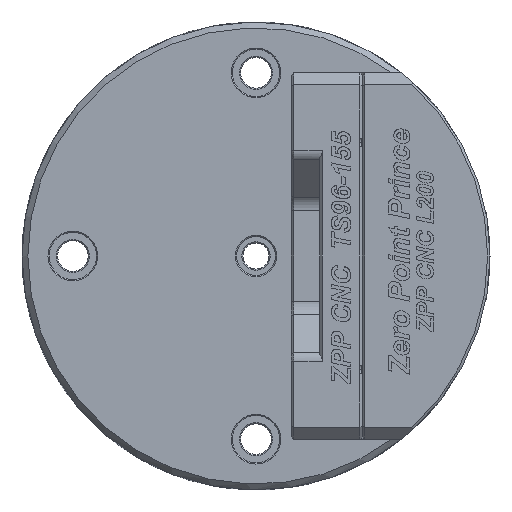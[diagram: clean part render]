
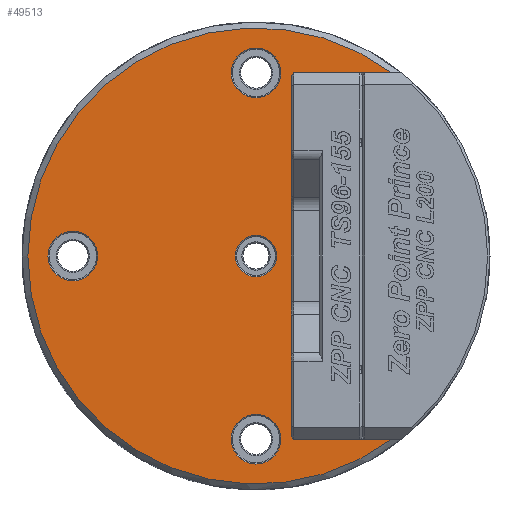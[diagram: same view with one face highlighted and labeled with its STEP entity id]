
A CAD part, left-side view. The second image highlights one B-rep face of the part: STEP entity #49513.
In plain terms, the highlighted planar face has unit normal (-1, 0, 0).
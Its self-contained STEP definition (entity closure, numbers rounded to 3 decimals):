
#46274=CARTESIAN_POINT('',(0.,0.,0.));
#46275=DIRECTION('',(-1.,0.,0.));
#46276=DIRECTION('',(0.,-0.596,0.803));
#46277=AXIS2_PLACEMENT_3D('',#46274,#46275,#46276);
#46296=CARTESIAN_POINT('',(0.,0.,0.));
#46297=DIRECTION('',(1.,0.,0.));
#46298=DIRECTION('',(0.,0.,1.));
#46299=AXIS2_PLACEMENT_3D('',#46296,#46297,#46298);
#46301=CARTESIAN_POINT('',(0.,0.,0.));
#46302=DIRECTION('',(1.,0.,0.));
#46303=DIRECTION('',(0.,0.,-1.));
#46304=AXIS2_PLACEMENT_3D('',#46301,#46302,#46303);
#46306=CARTESIAN_POINT('',(0.,77.5,0.));
#46307=DIRECTION('',(1.,0.,0.));
#46308=DIRECTION('',(0.,0.,-1.));
#46309=AXIS2_PLACEMENT_3D('',#46306,#46307,#46308);
#46311=CARTESIAN_POINT('',(0.,77.5,0.));
#46312=DIRECTION('',(1.,0.,0.));
#46313=DIRECTION('',(0.,0.,1.));
#46314=AXIS2_PLACEMENT_3D('',#46311,#46312,#46313);
#46316=CARTESIAN_POINT('',(0.,0.,77.5));
#46317=DIRECTION('',(1.,0.,0.));
#46318=DIRECTION('',(0.,-1.,0.));
#46319=AXIS2_PLACEMENT_3D('',#46316,#46317,#46318);
#46321=CARTESIAN_POINT('',(0.,0.,77.5));
#46322=DIRECTION('',(1.,0.,0.));
#46323=DIRECTION('',(0.,1.,0.));
#46324=AXIS2_PLACEMENT_3D('',#46321,#46322,#46323);
#46326=CARTESIAN_POINT('',(0.,0.,-77.5));
#46327=DIRECTION('',(1.,0.,0.));
#46328=DIRECTION('',(0.,-1.,0.));
#46329=AXIS2_PLACEMENT_3D('',#46326,#46327,#46328);
#46331=CARTESIAN_POINT('',(0.,0.,-77.5));
#46332=DIRECTION('',(1.,0.,0.));
#46333=DIRECTION('',(0.,1.,0.));
#46334=AXIS2_PLACEMENT_3D('',#46331,#46332,#46333);
#46336=DIRECTION('',(0.,1.,0.));
#46337=VECTOR('',#46336,30.356);
#46338=CARTESIAN_POINT('',(0.,-57.498,
77.5));
#46339=LINE('',#46338,#46337);
#46340=DIRECTION('',(0.,0.,-1.));
#46341=VECTOR('',#46340,153.);
#46342=CARTESIAN_POINT('',(0.,-20.,76.5));
#46343=LINE('',#46342,#46341);
#46344=DIRECTION('',(0.,-1.,0.));
#46345=VECTOR('',#46344,30.356);
#46346=CARTESIAN_POINT('',(0.,-27.141,-77.5));
#46347=LINE('',#46346,#46345);
#47091=CARTESIAN_POINT('',(0.,-20.,76.5));
#47092=CARTESIAN_POINT('',(0.,-20.749,76.5));
#47093=CARTESIAN_POINT('',(0.,-22.276,76.568));
#47094=CARTESIAN_POINT('',(0.,-24.611,76.885));
#47095=CARTESIAN_POINT('',(0.,-26.284,77.265));
#47096=CARTESIAN_POINT('',(0.,-27.141,77.5));
#47645=CARTESIAN_POINT('',(0.,-27.141,-77.5));
#47646=CARTESIAN_POINT('',(0.,-26.283,-77.264));
#47647=CARTESIAN_POINT('',(0.,-24.608,-76.884));
#47648=CARTESIAN_POINT('',(0.,-22.278,-76.569));
#47649=CARTESIAN_POINT('',(0.,-20.75,-76.5));
#47650=CARTESIAN_POINT('',(0.,-20.,-76.5));
#48375=CARTESIAN_POINT('',(0.,0.,8.75));
#48376=CARTESIAN_POINT('',(0.,0.,-8.75));
#48377=VERTEX_POINT('',#48375);
#48378=VERTEX_POINT('',#48376);
#48451=CARTESIAN_POINT('',(0.,-27.141,77.5));
#48452=VERTEX_POINT('',#48451);
#48453=CARTESIAN_POINT('',(0.,-20.,76.5));
#48454=VERTEX_POINT('',#48453);
#48455=CARTESIAN_POINT('',(0.,-20.,-76.5));
#48456=VERTEX_POINT('',#48455);
#48457=CARTESIAN_POINT('',(0.,-27.141,-77.5));
#48458=VERTEX_POINT('',#48457);
#48611=CARTESIAN_POINT('',(0.,77.5,-10.5));
#48612=CARTESIAN_POINT('',(0.,77.5,10.5));
#48613=VERTEX_POINT('',#48611);
#48614=VERTEX_POINT('',#48612);
#48685=CARTESIAN_POINT('',(0.,-10.5,77.5));
#48686=CARTESIAN_POINT('',(0.,10.5,77.5));
#48687=VERTEX_POINT('',#48685);
#48688=VERTEX_POINT('',#48686);
#48697=CARTESIAN_POINT('',(0.,-10.5,-77.5));
#48698=CARTESIAN_POINT('',(0.,10.5,-77.5));
#48699=VERTEX_POINT('',#48697);
#48700=VERTEX_POINT('',#48698);
#48831=CARTESIAN_POINT('',(0.,-57.498,
-77.5));
#48832=VERTEX_POINT('',#48831);
#48833=CARTESIAN_POINT('',(0.,-57.498,
77.5));
#48834=VERTEX_POINT('',#48833);
#49471=CARTESIAN_POINT('',(0.,0.,0.));
#49472=DIRECTION('',(1.,0.,0.));
#49473=DIRECTION('',(0.,-1.,0.));
#49474=AXIS2_PLACEMENT_3D('',#49471,#49472,#49473);
#49475=PLANE('',#49474);
#49476=ORIENTED_EDGE('',*,*,#49461,.F.);
#49478=ORIENTED_EDGE('',*,*,#49477,.T.);
#49480=ORIENTED_EDGE('',*,*,#49479,.F.);
#49482=ORIENTED_EDGE('',*,*,#49481,.T.);
#49484=ORIENTED_EDGE('',*,*,#49483,.F.);
#49486=ORIENTED_EDGE('',*,*,#49485,.T.);
#49487=EDGE_LOOP('',(#49476,#49478,#49480,#49482,#49484,#49486));
#49488=FACE_OUTER_BOUND('',#49487,.F.);
#49490=ORIENTED_EDGE('',*,*,#49489,.F.);
#49492=ORIENTED_EDGE('',*,*,#49491,.F.);
#49493=EDGE_LOOP('',(#49490,#49492));
#49494=FACE_BOUND('',#49493,.F.);
#49496=ORIENTED_EDGE('',*,*,#49495,.F.);
#49498=ORIENTED_EDGE('',*,*,#49497,.F.);
#49499=EDGE_LOOP('',(#49496,#49498));
#49500=FACE_BOUND('',#49499,.F.);
#49502=ORIENTED_EDGE('',*,*,#49501,.F.);
#49504=ORIENTED_EDGE('',*,*,#49503,.F.);
#49505=EDGE_LOOP('',(#49502,#49504));
#49506=FACE_BOUND('',#49505,.F.);
#49508=ORIENTED_EDGE('',*,*,#49507,.F.);
#49510=ORIENTED_EDGE('',*,*,#49509,.F.);
#49511=EDGE_LOOP('',(#49508,#49510));
#49512=FACE_BOUND('',#49511,.F.);
#49513=ADVANCED_FACE('',(#49488,#49494,#49500,#49506,#49512),#49475,.F.);
#46278=CIRCLE('',#46277,96.5);
#46300=CIRCLE('',#46299,8.75);
#46305=CIRCLE('',#46304,8.75);
#46310=CIRCLE('',#46309,10.5);
#46315=CIRCLE('',#46314,10.5);
#46320=CIRCLE('',#46319,10.5);
#46325=CIRCLE('',#46324,10.5);
#46330=CIRCLE('',#46329,10.5);
#46335=CIRCLE('',#46334,10.5);
#47097=B_SPLINE_CURVE_WITH_KNOTS('',3,(#47091,#47092,#47093,#47094,#47095,
#47096),.UNSPECIFIED.,.F.,.F.,(4,1,1,4),(0.,0.333,
0.667,1.),.UNSPECIFIED.);
#47651=B_SPLINE_CURVE_WITH_KNOTS('',3,(#47645,#47646,#47647,#47648,#47649,
#47650),.UNSPECIFIED.,.F.,.F.,(4,1,1,4),(0.,0.333,
0.667,1.),.UNSPECIFIED.);
#49461=EDGE_CURVE('',#48834,#48832,#46278,.T.);
#49477=EDGE_CURVE('',#48834,#48452,#46339,.T.);
#49479=EDGE_CURVE('',#48454,#48452,#47097,.T.);
#49481=EDGE_CURVE('',#48454,#48456,#46343,.T.);
#49483=EDGE_CURVE('',#48458,#48456,#47651,.T.);
#49485=EDGE_CURVE('',#48458,#48832,#46347,.T.);
#49489=EDGE_CURVE('',#48613,#48614,#46310,.T.);
#49491=EDGE_CURVE('',#48614,#48613,#46315,.T.);
#49495=EDGE_CURVE('',#48687,#48688,#46320,.T.);
#49497=EDGE_CURVE('',#48688,#48687,#46325,.T.);
#49501=EDGE_CURVE('',#48699,#48700,#46330,.T.);
#49503=EDGE_CURVE('',#48700,#48699,#46335,.T.);
#49507=EDGE_CURVE('',#48377,#48378,#46300,.T.);
#49509=EDGE_CURVE('',#48378,#48377,#46305,.T.);
